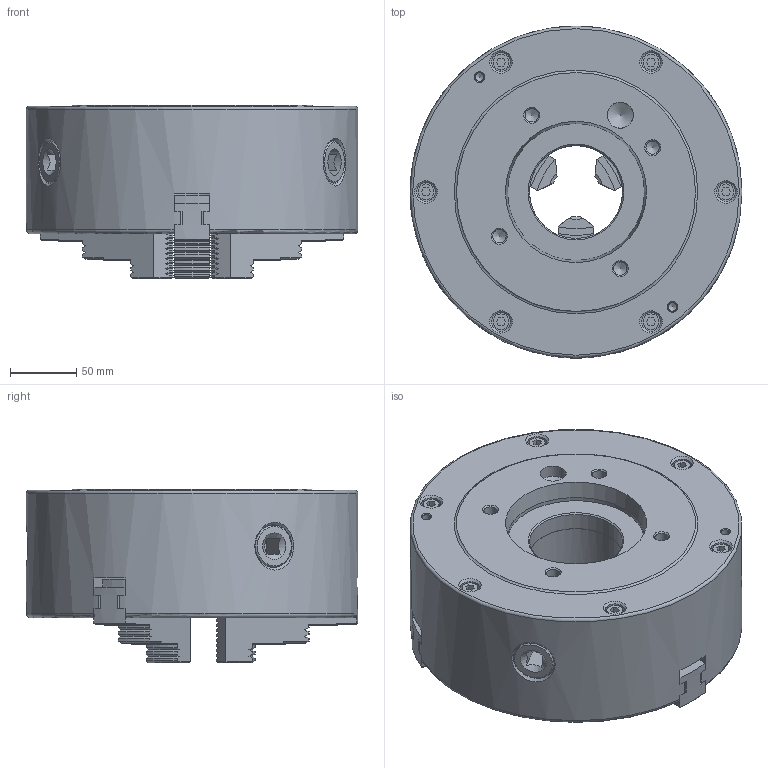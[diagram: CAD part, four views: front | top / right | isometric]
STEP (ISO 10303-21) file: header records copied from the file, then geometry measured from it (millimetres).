
FILE_DESCRIPTION(/* description */ (''),/* implementation_level */ '2;1');
FILE_NAME(/* name */ '',/* time_stamp */ '2025-02-07T16:56:06+03:00',/* author */ ('User'),/* organization */ (''),/* preprocessor_version */ 'ST-DEVELOPER v19.2',/* originating_system */ 'Autodesk Inventor 2024',/* authorisation */ '');
FILE_SCHEMA (('AUTOMOTIVE_DESIGN { 1 0 10303 214 3 1 1 }'));
Length unit declared in the file: millimetre
Products named in the file (3): Патрон 250; Патрон 250_1; Кулачок прям,
 250
Assembly tree (4 placements, depth 2):
  Патрон 250
    Патрон 250_1
    Кулачок прям,
 250  x3
Bounding box: 250 x 250 x 131 mm (x, y, z)
Volume: 4383212.4 mm3; surface area: 305241.2 mm2
Topology: 4 solids, 4 shells, 662 faces, 1778 edges, 1172 vertices
Faces by surface type: plane 314, cylinder 174, cone 169, torus 5
Full cylindrical faces by diameter (mm): 6.647 x2, 10.106 x4, 12 x12, 14 x12, 19.5 x1, 31.8 x3, 32 x3, 70 x2, 80 x1, 103.125 x1, 250 x1
Entity records: 12025 total; most frequent: CARTESIAN_POINT 2545, ORIENTED_EDGE 1978, DIRECTION 1945, EDGE_CURVE 989, AXIS2_PLACEMENT_3D 691, VERTEX_POINT 656, LINE 563, VECTOR 563
